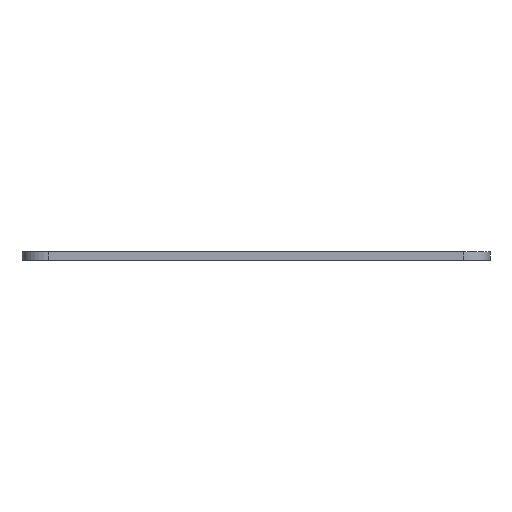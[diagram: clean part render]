
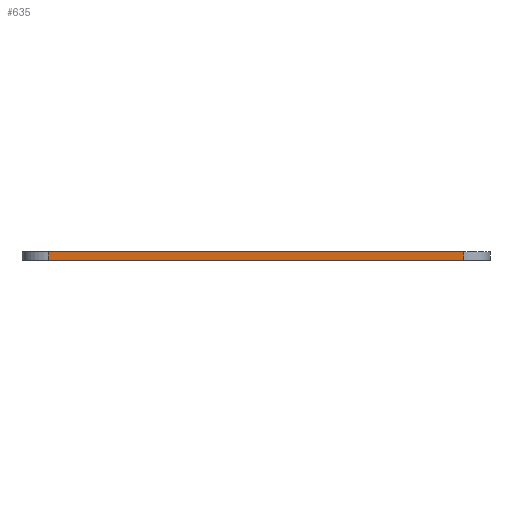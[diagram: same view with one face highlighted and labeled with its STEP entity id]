
A CAD part, left-side view. The second image highlights one B-rep face of the part: STEP entity #635.
In plain terms, the highlighted planar face has unit normal (-1, 0, 0).
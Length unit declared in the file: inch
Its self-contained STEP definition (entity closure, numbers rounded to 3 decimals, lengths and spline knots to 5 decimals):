
#14 = CARTESIAN_POINT ( 'NONE',  ( 0., 0.19062, 0. ) ) ;
#49 = DIRECTION ( 'NONE',  ( 0., -1., 0. ) ) ;
#69 = VECTOR ( 'NONE', #747, 39.37008 ) ;
#111 = EDGE_CURVE ( 'NONE', #561, #335, #1102, .T. ) ;
#141 = CARTESIAN_POINT ( 'NONE',  ( 0., 0.19062, 0.0625 ) ) ;
#143 = LINE ( 'NONE', #564, #578 ) ;
#188 = PLANE ( 'NONE',  #984 ) ;
#189 = CARTESIAN_POINT ( 'NONE',  ( 0., 3.18438, 0.0625 ) ) ;
#194 = EDGE_CURVE ( 'NONE', #981, #705, #143, .T. ) ;
#236 = ORIENTED_EDGE ( 'NONE', *, *, #765, .F. ) ;
#276 = EDGE_CURVE ( 'NONE', #705, #561, #729, .T. ) ;
#288 = VECTOR ( 'NONE', #843, 39.37008 ) ;
#335 = VERTEX_POINT ( 'NONE', #583 ) ;
#359 = DIRECTION ( 'NONE',  ( 0., 0., -1. ) ) ;
#374 = DIRECTION ( 'NONE',  ( 0., 1., 0. ) ) ;
#425 = ORIENTED_EDGE ( 'NONE', *, *, #276, .F. ) ;
#442 = ORIENTED_EDGE ( 'NONE', *, *, #111, .F. ) ;
#459 = CARTESIAN_POINT ( 'NONE',  ( 0., 3.18438, 0.0625 ) ) ;
#517 = LINE ( 'NONE', #459, #288 ) ;
#532 = CARTESIAN_POINT ( 'NONE',  ( 0., 3.375, 0.0625 ) ) ;
#561 = VERTEX_POINT ( 'NONE', #14 ) ;
#564 = CARTESIAN_POINT ( 'NONE',  ( 0., 0., 0.0625 ) ) ;
#578 = VECTOR ( 'NONE', #49, 39.37008 ) ;
#583 = CARTESIAN_POINT ( 'NONE',  ( 0., 3.18438, 0. ) ) ;
#635 = ADVANCED_FACE ( 'NONE', ( #902 ), #188, .F. ) ;
#652 = ORIENTED_EDGE ( 'NONE', *, *, #194, .F. ) ;
#705 = VERTEX_POINT ( 'NONE', #964 ) ;
#729 = LINE ( 'NONE', #141, #69 ) ;
#738 = EDGE_LOOP ( 'NONE', ( #425, #652, #236, #442 ) ) ;
#747 = DIRECTION ( 'NONE',  ( 0., 0., -1. ) ) ;
#765 = EDGE_CURVE ( 'NONE', #335, #981, #517, .T. ) ;
#843 = DIRECTION ( 'NONE',  ( 0., 0., 1. ) ) ;
#872 = DIRECTION ( 'NONE',  ( 1., 0., 0. ) ) ;
#878 = VECTOR ( 'NONE', #374, 39.37008 ) ;
#902 = FACE_OUTER_BOUND ( 'NONE', #738, .T. ) ;
#964 = CARTESIAN_POINT ( 'NONE',  ( 0., 0.19062, 0.0625 ) ) ;
#981 = VERTEX_POINT ( 'NONE', #189 ) ;
#984 = AXIS2_PLACEMENT_3D ( 'NONE', #532, #872, #359 ) ;
#1051 = CARTESIAN_POINT ( 'NONE',  ( 0., 3.375, 0. ) ) ;
#1102 = LINE ( 'NONE', #1051, #878 ) ;
